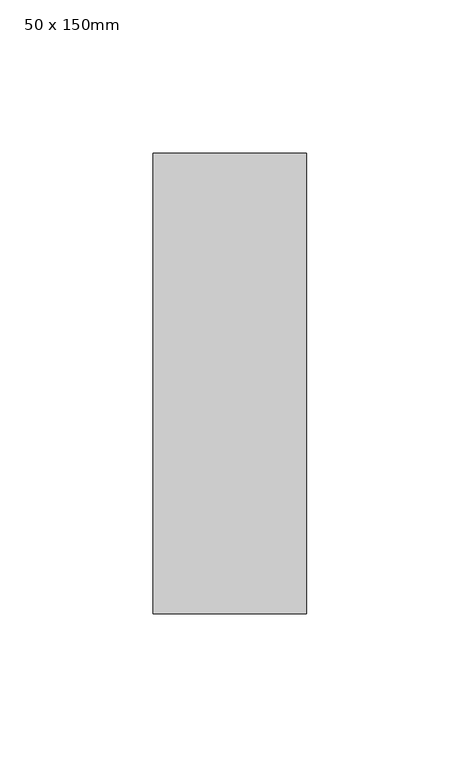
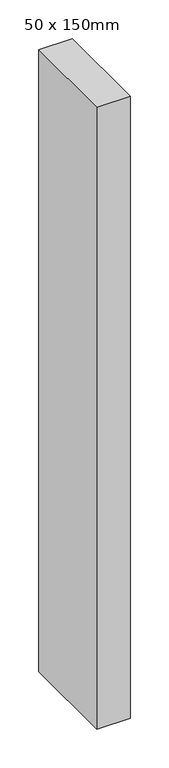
"""IFC4 building model written with IfcOpenShell, lengths in millimetres: member geometry, 矩形豎框 : 50 x 150mm."""

from ifc_helpers import new_model, si_unit, frame, origin, place, context, project, spatial, polyline, outline, extrude, source, transform, mapped, element, save


def member_50_x_150mm_d835aa78(model_context):
    return source(origin(), model_context, "Body", "SweptSolid", [
        extrude(outline(polyline([(25.0, 75.0), (25.0, -75.0), (-25.0, -75.0), (-25.0, 75.0), (25.0, 75.0)])), frame((0.0, 0.0, -981.6666667), z_axis=(0.0, 0.0, 1.0), x_axis=(1.0, 0.0, 0.0)), (0.0, 0.0, 1.0), 981.6666667),
    ])


if __name__ == "__main__":
    model = new_model("IFC4")
    model_context = context("Model", 3, world=origin())
    ifc_project = project(units=[si_unit("LENGTHUNIT", "METRE", prefix="MILLI")], contexts=[model_context])
    site = spatial("IfcSite", under=ifc_project)
    building = spatial("IfcBuilding", under=site)
    placement = place(None, origin())
    member_50_x_150mm_shape = member_50_x_150mm_d835aa78(model_context)
    element("IfcMember", 1, ObjectType="矩形豎框 : 50 x 150mm", at=placement, inside=building, context=model_context, shape_type="MappedRepresentation", body=[
        mapped(member_50_x_150mm_shape, transform((0.0, 0.0, 0.0), x_axis=(1.0, 0.0, 0.0), y_axis=(0.0, 1.0, 0.0), z_axis=(0.0, 0.0, 1.0))),
    ])
    save(model, "model.ifc")
